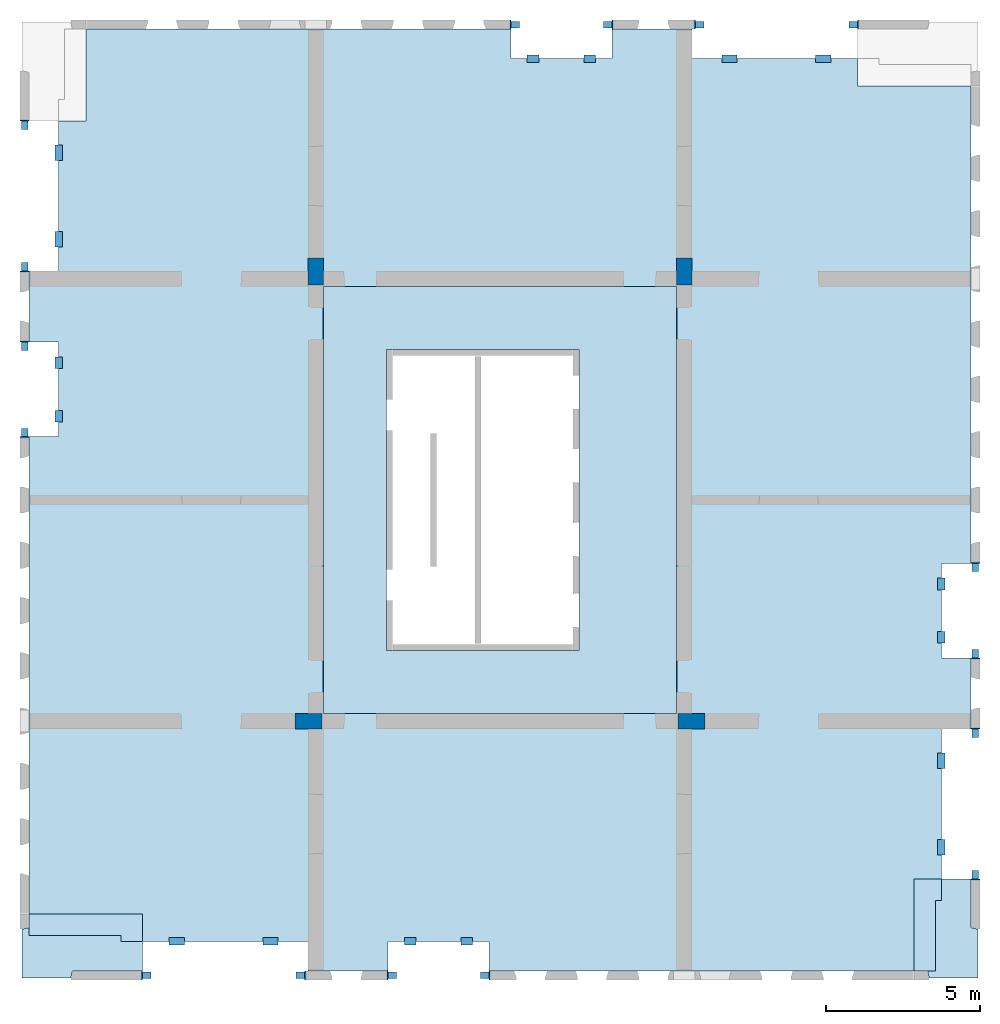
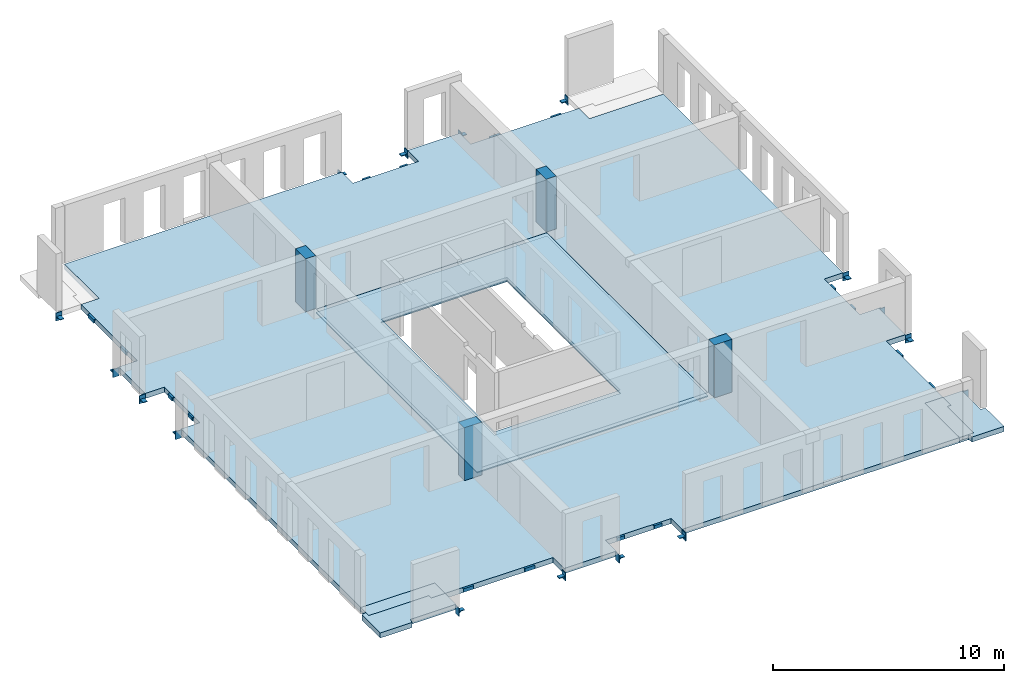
# One storey, part 1 of 4: 32 beams, 7 slabs, 4 columns, 3 openings.
"""IFC2X3 building model written with IfcOpenShell, lengths in millimetres."""

from ifc_helpers import new_model, entity, si_unit, converted_unit, derived_unit, direction, frame, frame_2d, origin, origin_2d_with_axis, place, context, subcontext, project, spatial, polyline, rectangle, outline, extrude, source, transform, mapped, material, layer, layer_set, layer_usage, type_object, type_shapes, element, save


model = new_model("IFC2X3")

# Units and contexts
model_context = context("Model", 3, precision=0.01, world=origin(), true_north=direction((6.12303176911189e-17, 1.0)))
body_context = subcontext(model_context, "Body", "Model", "MODEL_VIEW")
ifc_project = project(units=[si_unit("LENGTHUNIT", "METRE", prefix="MILLI"), si_unit("AREAUNIT", "SQUARE_METRE"), si_unit("VOLUMEUNIT", "CUBIC_METRE"), converted_unit("PLANEANGLEUNIT", "DEGREE", entity("IfcRatioMeasure", 0.0174532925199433), si_unit("PLANEANGLEUNIT", "RADIAN"), dimensions=[0, 0, 0, 0, 0, 0, 0]), si_unit("MASSUNIT", "GRAM", prefix="KILO"), derived_unit("MASSDENSITYUNIT", [(si_unit("MASSUNIT", "GRAM", prefix="KILO"), 1), (si_unit("LENGTHUNIT", "METRE"), -3)]), si_unit("TIMEUNIT", "SECOND"), si_unit("FREQUENCYUNIT", "HERTZ"), si_unit("THERMODYNAMICTEMPERATUREUNIT", "DEGREE_CELSIUS"), derived_unit("THERMALTRANSMITTANCEUNIT", [(si_unit("MASSUNIT", "GRAM", prefix="KILO"), 1), (si_unit("THERMODYNAMICTEMPERATUREUNIT", "KELVIN"), -1), (si_unit("TIMEUNIT", "SECOND"), -3)]), derived_unit("VOLUMETRICFLOWRATEUNIT", [(si_unit("LENGTHUNIT", "METRE"), 3), (si_unit("TIMEUNIT", "SECOND"), -1)]), si_unit("ELECTRICCURRENTUNIT", "AMPERE"), si_unit("ELECTRICVOLTAGEUNIT", "VOLT"), si_unit("POWERUNIT", "WATT"), si_unit("FORCEUNIT", "NEWTON", prefix="KILO"), si_unit("ILLUMINANCEUNIT", "LUX"), si_unit("LUMINOUSFLUXUNIT", "LUMEN"), si_unit("LUMINOUSINTENSITYUNIT", "CANDELA"), derived_unit("USERDEFINED", [(si_unit("MASSUNIT", "GRAM", prefix="KILO"), -1), (si_unit("LENGTHUNIT", "METRE"), -2), (si_unit("TIMEUNIT", "SECOND"), 3), (si_unit("LUMINOUSFLUXUNIT", "LUMEN"), 1)]), derived_unit("LINEARVELOCITYUNIT", [(si_unit("LENGTHUNIT", "METRE"), 1), (si_unit("TIMEUNIT", "SECOND"), -1)]), si_unit("PRESSUREUNIT", "PASCAL"), derived_unit("USERDEFINED", [(si_unit("LENGTHUNIT", "METRE"), -2), (si_unit("MASSUNIT", "GRAM", prefix="KILO"), 1), (si_unit("TIMEUNIT", "SECOND"), -2)])], contexts=[model_context])

# Site, building, storey
site_placement = place(None, origin())
site = spatial("IfcSite", under=ifc_project, at=site_placement, Name="Default", CompositionType="ELEMENT")
building_placement = place(site_placement, origin())
building = spatial("IfcBuilding", under=site, at=building_placement, Name="niet gebruiken", CompositionType="ELEMENT")
storey_placement = place(building_placement, frame((0.0, 0.0, 60840.0)))
storey = spatial("IfcBuildingStorey", under=building, at=storey_placement, Name="19 negentiende verdieping", CompositionType="ELEMENT", Elevation=60840.0)

# Columns
ifc_material_1 = material(Name="NLRS_f2_beton ihwg")
column_type_1 = type_object("IfcColumnType", Name="500x880", PredefinedType="COLUMN", material=ifc_material_1)
shared_shape_1 = source(origin(), body_context, "Body", "SweptSolid", [
    extrude(rectangle(XDim=879.999999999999, YDim=500.000000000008, at=origin_2d_with_axis()), frame((135750.003540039, 24940.0, 60750.0), z_axis=(0.0, 0.0, 1.0), x_axis=(0.0, -1.0, 0.0)), (0.0, 0.0, 1.0), 2790.0),
])
type_shapes(column_type_1, [shared_shape_1])
column_1_placement = place(storey_placement, frame((0.0, 0.0, -60840.0)))
element("IfcColumn", 1, at=column_1_placement, inside=storey, type_object=column_type_1, material=ifc_material_1, Name="NLRS_28.11_SCO_TLB_beton kolom ihwg_gen:500x880", ObjectType="500x880", context=body_context, shape_type="MappedRepresentation", body=[
    mapped(shared_shape_1, transform((0.0, 0.0, 0.0), scale=1.0)),
])
column_type_2 = type_object("IfcColumnType", Name="500x880", PredefinedType="COLUMN", material=ifc_material_1)
shared_shape_2 = source(origin(), body_context, "Body", "SweptSolid", [
    extrude(rectangle(XDim=879.999999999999, YDim=500.000000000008, at=origin_2d_with_axis()), frame((147750.0, 24940.0, 60750.0), z_axis=(0.0, 0.0, 1.0), x_axis=(0.0, -1.0, 0.0)), (0.0, 0.0, 1.0), 2790.0),
])
type_shapes(column_type_2, [shared_shape_2])
column_2_placement = place(storey_placement, frame((0.0, 0.0, -60840.0)))
element("IfcColumn", 2, at=column_2_placement, inside=storey, type_object=column_type_2, material=ifc_material_1, Name="NLRS_28.11_SCO_TLB_beton kolom ihwg_gen:500x880", ObjectType="500x880", context=body_context, shape_type="MappedRepresentation", body=[
    mapped(shared_shape_2, transform((0.0, 0.0, 0.0), scale=1.0)),
])
column_type_3 = type_object("IfcColumnType", Name="500x880", PredefinedType="COLUMN", material=ifc_material_1)
shared_shape_3 = source(origin(), body_context, "Body", "SweptSolid", [
    extrude(rectangle(XDim=500.000000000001, YDim=880.000000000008, at=origin_2d_with_axis()), frame((135510.003540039, 10300.0115507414, 60750.0), z_axis=(0.0, 0.0, 1.0), x_axis=(0.0, -1.0, 0.0)), (0.0, 0.0, 1.0), 2790.0),
])
type_shapes(column_type_3, [shared_shape_3])
column_3_placement = place(storey_placement, frame((0.0, 0.0, -60840.0)))
element("IfcColumn", 3, at=column_3_placement, inside=storey, type_object=column_type_3, material=ifc_material_1, Name="NLRS_28.11_SCO_TLB_beton kolom ihwg_gen:500x880", ObjectType="500x880", context=body_context, shape_type="MappedRepresentation", body=[
    mapped(shared_shape_3, transform((0.0, 0.0, 0.0), scale=1.0)),
])
column_type_4 = type_object("IfcColumnType", Name="500x880", PredefinedType="COLUMN", material=ifc_material_1)
shared_shape_4 = source(origin(), body_context, "Body", "SweptSolid", [
    extrude(rectangle(XDim=500.000000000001, YDim=880.000000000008, at=origin_2d_with_axis()), frame((147990.0, 10300.0, 60750.0), z_axis=(0.0, 0.0, 1.0), x_axis=(0.0, -1.0, 0.0)), (0.0, 0.0, 1.0), 2790.0),
])
type_shapes(column_type_4, [shared_shape_4])
column_4_placement = place(storey_placement, frame((0.0, 0.0, -60840.0)))
element("IfcColumn", 4, at=column_4_placement, inside=storey, type_object=column_type_4, material=ifc_material_1, Name="NLRS_28.11_SCO_TLB_beton kolom ihwg_gen:500x880", ObjectType="500x880", context=body_context, shape_type="MappedRepresentation", body=[
    mapped(shared_shape_4, transform((0.0, 0.0, 0.0), scale=1.0)),
])

# Beams
ifc_material_2 = material(Name="NLRS_h2_staal")
beam_type_1 = type_object("IfcBeamType", Name="NLRS_28.11_SF_WPB_stalen schoen 4_gen", PredefinedType="BEAM", material=ifc_material_2)
shared_shape_5 = source(origin(), body_context, "Body", "SweptSolid", [
    extrude(outline(polyline([(-69.4999999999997, -23.0), (8.49999999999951, -23.0), (30.5, -1.0), (30.5000000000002, 47.0), (-69.4999999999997, -23.0)])), frame((-105.0, -109.499999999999, -58.0), z_axis=(1.0, 0.0, 0.0), x_axis=(0.0, -1.0, 0.0)), (0.0, 0.0, 1.0), 35.0),
    extrude(outline(polyline([(-69.4999999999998, -23.0), (8.49999999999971, -23.0), (30.5, -1.0), (30.5000000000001, 47.0), (-69.4999999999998, -23.0)])), frame((70.0, -109.499999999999, -58.0), z_axis=(1.0, 0.0, 0.0), x_axis=(0.0, -1.0, 0.0)), (0.0, 0.0, 1.0), 35.0),
    extrude(rectangle(XDim=300.0, YDim=34.9999999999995, at=origin_2d_with_axis()), frame((0.0, -157.5, -230.0), z_axis=(0.0, 0.0, 1.0), x_axis=(-1.0, 0.0, 0.0)), (0.0, 0.0, 1.0), 420.0),
    extrude(rectangle(XDim=210.000000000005, YDim=274.999999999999, at=origin_2d_with_axis()), frame((0.0, -2.4999999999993, -35.0), z_axis=(0.0, 0.0, 1.0), x_axis=(-1.0, 0.0, 0.0)), (0.0, 0.0, 1.0), 35.0),
])
type_shapes(beam_type_1, [shared_shape_5])
beam_1_placement = place(storey_placement, frame((157230.0, 12499.7638872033, -310.0)))
element("IfcBeam", 5, at=beam_1_placement, inside=storey, type_object=beam_type_1, material=ifc_material_2, Name="NLRS_28.11_SF_WPB_stalen schoen 4_gen:NLRS_28.11_SF_WPB_stalen schoen 4_gen", ObjectType="NLRS_28.11_SF_WPB_stalen schoen 4_gen", context=body_context, shape_type="MappedRepresentation", body=[
    mapped(shared_shape_5, transform((0.0, 0.0, 0.0), scale=1.0)),
])
for number, where, z_axis, x_axis, name in (
    (6, (126270.0, 22499.7638872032, -310.0), (0.0, 0.0, 1.0), (-1.0, 0.0, 0.0), "NLRS_28.11_SF_WPB_stalen schoen 4_gen:NLRS_28.11_SF_WPB_stalen schoen 4_gen"),
    (7, (157230.0, 15299.7638872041, -310.0), (0.0, 0.0, 1.0), (-1.0, 0.0, 0.0), "NLRS_28.11_SF_WPB_stalen schoen 4_gen:NLRS_28.11_SF_WPB_stalen schoen 4_gen"),
):
    element("IfcBeam", number, at=place(storey_placement, frame(where, z_axis=z_axis, x_axis=x_axis)), inside=storey, type_object=beam_type_1, material=ifc_material_2, Name=name, ObjectType="NLRS_28.11_SF_WPB_stalen schoen 4_gen", context=body_context, shape_type="MappedRepresentation", body=[
        mapped(shared_shape_5, transform((0.0, 0.0, 0.0), scale=1.0)),
    ])
beam_2_placement = place(storey_placement, frame((126270.0, 19699.7638872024, -310.0)))
element("IfcBeam", 8, at=beam_2_placement, inside=storey, type_object=beam_type_1, material=ifc_material_2, Name="NLRS_28.11_SF_WPB_stalen schoen 4_gen:NLRS_28.11_SF_WPB_stalen schoen 4_gen", ObjectType="NLRS_28.11_SF_WPB_stalen schoen 4_gen", context=body_context, shape_type="MappedRepresentation", body=[
    mapped(shared_shape_5, transform((0.0, 0.0, 0.0), scale=1.0)),
])
for number, where, z_axis, x_axis, name in (
    (9, (138250.0, 2019.76388720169, -310.0), (0.0, 0.0, 1.0), (0.0, -1.0, 0.0), "NLRS_28.11_SF_WPB_stalen schoen 4_gen:NLRS_28.11_SF_WPB_stalen schoen 4_gen"),
    (10, (141250.0, 2019.76388720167, -310.0), (0.0, 0.0, 1.0), (0.0, 1.0, 0.0), "NLRS_28.11_SF_WPB_stalen schoen 4_gen:NLRS_28.11_SF_WPB_stalen schoen 4_gen"),
    (11, (145250.0, 32979.7638872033, -310.0), (0.0, 0.0, 1.0), (0.0, 1.0, 0.0), "NLRS_28.11_SF_WPB_stalen schoen 4_gen:NLRS_28.11_SF_WPB_stalen schoen 4_gen"),
    (12, (142250.0, 32979.7638872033, -310.0), (0.0, 0.0, 1.0), (0.0, -1.0, 0.0), "NLRS_28.11_SF_WPB_stalen schoen 4_gen:NLRS_28.11_SF_WPB_stalen schoen 4_gen"),
):
    element("IfcBeam", number, at=place(storey_placement, frame(where, z_axis=z_axis, x_axis=x_axis)), inside=storey, type_object=beam_type_1, material=ifc_material_2, Name=name, ObjectType="NLRS_28.11_SF_WPB_stalen schoen 4_gen", context=body_context, shape_type="MappedRepresentation", body=[
        mapped(shared_shape_5, transform((0.0, 0.0, 0.0), scale=1.0)),
    ])
beam_type_2 = type_object("IfcBeamType", Name="NLRS_28.11_SF_WPB_stalen schoen 3_gen", PredefinedType="BEAM", material=ifc_material_2)
shared_shape_6 = source(origin(), body_context, "Body", "SweptSolid", [
    extrude(outline(polyline([(-69.4999999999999, -23.0), (8.49999999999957, -23.0), (30.5000000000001, -1.0), (30.5000000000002, 47.0), (-69.4999999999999, -23.0)])), frame((-105.0, -109.499999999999, -63.0), z_axis=(1.0, 0.0, 0.0), x_axis=(0.0, -1.0, 0.0)), (0.0, 0.0, 1.0), 40.0),
    extrude(outline(polyline([(-69.4999999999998, -23.0), (8.49999999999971, -23.0), (30.5, -1.0), (30.5000000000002, 47.0), (-69.4999999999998, -23.0)])), frame((65.0, -109.499999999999, -63.0), z_axis=(1.0, 0.0, 0.0), x_axis=(0.0, -1.0, 0.0)), (0.0, 0.0, 1.0), 40.0),
    extrude(rectangle(XDim=300.0, YDim=39.9999999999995, at=origin_2d_with_axis()), frame((0.0, -160.0, -230.0), z_axis=(0.0, 0.0, 1.0), x_axis=(-1.0, 0.0, 0.0)), (0.0, 0.0, 1.0), 420.0),
    extrude(rectangle(XDim=210.000000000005, YDim=274.999999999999, at=origin_2d_with_axis()), frame((0.0, -2.49999999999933, -40.0), z_axis=(0.0, 0.0, 1.0), x_axis=(-1.0, 0.0, 0.0)), (0.0, 0.0, 1.0), 39.9999999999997),
])
type_shapes(beam_type_2, [shared_shape_6])
beam_3_placement = place(storey_placement, frame((157230.0, 9899.76388720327, -310.0), z_axis=(0.0, 0.0, 1.0), x_axis=(-1.0, 0.0, 0.0)))
element("IfcBeam", 13, at=beam_3_placement, inside=storey, type_object=beam_type_2, material=ifc_material_2, Name="NLRS_28.11_SF_WPB_stalen schoen 3_gen:NLRS_28.11_SF_WPB_stalen schoen 3_gen", ObjectType="NLRS_28.11_SF_WPB_stalen schoen 3_gen", context=body_context, shape_type="MappedRepresentation", body=[
    mapped(shared_shape_6, transform((0.0, 0.0, 0.0), scale=1.0)),
])
for number, where, name in (
    (14, (157230.0, 5299.76388720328, -310.0), "NLRS_28.11_SF_WPB_stalen schoen 3_gen:NLRS_28.11_SF_WPB_stalen schoen 3_gen"),
    (15, (126270.0, 25099.7638872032, -310.0), "NLRS_28.11_SF_WPB_stalen schoen 3_gen:NLRS_28.11_SF_WPB_stalen schoen 3_gen"),
):
    element("IfcBeam", number, at=place(storey_placement, frame(where)), inside=storey, type_object=beam_type_2, material=ifc_material_2, Name=name, ObjectType="NLRS_28.11_SF_WPB_stalen schoen 3_gen", context=body_context, shape_type="MappedRepresentation", body=[
        mapped(shared_shape_6, transform((0.0, 0.0, 0.0), scale=1.0)),
    ])
for number, where, z_axis, x_axis, name in (
    (16, (126270.0, 29699.7638872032, -310.0), (0.0, 0.0, 1.0), (-1.0, 0.0, 0.0), "NLRS_28.11_SF_WPB_stalen schoen 3_gen:NLRS_28.11_SF_WPB_stalen schoen 3_gen"),
    (17, (135250.0, 2019.76388720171, -310.0), (0.0, 0.0, 1.0), (0.0, 1.0, 0.0), "NLRS_28.11_SF_WPB_stalen schoen 3_gen:NLRS_28.11_SF_WPB_stalen schoen 3_gen"),
    (18, (130250.0, 2019.76388720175, -310.0), (0.0, 0.0, 1.0), (0.0, -1.0, 0.0), "NLRS_28.11_SF_WPB_stalen schoen 3_gen:NLRS_28.11_SF_WPB_stalen schoen 3_gen"),
    (19, (148250.0, 32979.7638872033, -310.0), (0.0, 0.0, 1.0), (0.0, -1.0, 0.0), "NLRS_28.11_SF_WPB_stalen schoen 3_gen:NLRS_28.11_SF_WPB_stalen schoen 3_gen"),
    (20, (153250.0, 32979.7638872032, -310.0), (0.0, 0.0, 1.0), (0.0, 1.0, 0.0), "NLRS_28.11_SF_WPB_stalen schoen 3_gen:NLRS_28.11_SF_WPB_stalen schoen 3_gen"),
):
    element("IfcBeam", number, at=place(storey_placement, frame(where, z_axis=z_axis, x_axis=x_axis)), inside=storey, type_object=beam_type_2, material=ifc_material_2, Name=name, ObjectType="NLRS_28.11_SF_WPB_stalen schoen 3_gen", context=body_context, shape_type="MappedRepresentation", body=[
        mapped(shared_shape_6, transform((0.0, 0.0, 0.0), scale=1.0)),
    ])
beam_type_3 = type_object("IfcBeamType", Name="NLRS_28.11_SF_WPB_stalen handje 7 lang 375_gen:NLRS_28.11_SF_WPB_stalen handje 7_gen", PredefinedType="BEAM")
beam_4_placement = place(storey_placement, frame((156235.125015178, 9255.01275181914, -93.0), z_axis=(0.0, 0.0, 1.0), x_axis=(0.0, -1.0, 0.0)))
element("IfcBeam", 21, at=beam_4_placement, inside=storey, type_object=beam_type_3, material=ifc_material_2, Name="NLRS_28.11_SF_WPB_stalen handje 7 lang 375_gen:NLRS_28.11_SF_WPB_stalen handje 7_gen", ObjectType="NLRS_28.11_SF_WPB_stalen handje 7 lang 375_gen:NLRS_28.11_SF_WPB_stalen handje 7_gen", context=body_context, shape_type="SweptSolid", body=[
    extrude(outline(polyline([(-70.6666666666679, -153.33333333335), (-40.6666666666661, -153.33333333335), (-40.6666666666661, 61.6666666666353), (111.333333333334, 61.6666666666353), (111.333333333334, 91.6666666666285), (-70.6666666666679, 91.6666666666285), (-70.6666666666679, -153.33333333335)])), frame((0.0, -91.6666666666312, -70.6666666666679), z_axis=(1.0, 0.0, 0.0), x_axis=(0.0, 0.0, -1.0)), (0.0, 0.0, 1.0), 500.000000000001),
])
beam_5_placement = place(storey_placement, frame((156235.125015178, 6445.0097115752, -93.0), z_axis=(0.0, 0.0, 1.0), x_axis=(0.0, -1.0, 0.0)))
element("IfcBeam", 22, at=beam_5_placement, inside=storey, type_object=beam_type_3, material=ifc_material_2, Name="NLRS_28.11_SF_WPB_stalen handje 7 lang 375_gen:NLRS_28.11_SF_WPB_stalen handje 7_gen", ObjectType="NLRS_28.11_SF_WPB_stalen handje 7 lang 375_gen:NLRS_28.11_SF_WPB_stalen handje 7_gen", context=body_context, shape_type="SweptSolid", body=[
    extrude(outline(polyline([(-70.6666666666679, -153.33333333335), (-40.6666666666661, -153.33333333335), (-40.6666666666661, 61.6666666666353), (111.333333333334, 61.6666666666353), (111.333333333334, 91.6666666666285), (-70.6666666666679, 91.6666666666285), (-70.6666666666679, -153.33333333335)])), frame((0.0, -91.6666666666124, -70.6666666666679), z_axis=(1.0, 0.0, 0.0), x_axis=(0.0, 0.0, -1.0)), (0.0, 0.0, 1.0), 500.000000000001),
])
beam_6_placement = place(storey_placement, frame((127264.874984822, 25744.5150225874, -93.0), z_axis=(0.0, 0.0, 1.0), x_axis=(0.0, 1.0, 0.0)))
element("IfcBeam", 23, at=beam_6_placement, inside=storey, type_object=beam_type_3, material=ifc_material_2, Name="NLRS_28.11_SF_WPB_stalen handje 7 lang 375_gen:NLRS_28.11_SF_WPB_stalen handje 7_gen", ObjectType="NLRS_28.11_SF_WPB_stalen handje 7 lang 375_gen:NLRS_28.11_SF_WPB_stalen handje 7_gen", context=body_context, shape_type="SweptSolid", body=[
    extrude(outline(polyline([(-70.6666666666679, -153.333333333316), (-40.6666666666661, -153.333333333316), (-40.6666666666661, 61.66666666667), (111.333333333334, 61.66666666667), (111.333333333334, 91.6666666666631), (-70.6666666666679, 91.6666666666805), (-70.6666666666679, -153.333333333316)])), frame((0.0, -91.6666666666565, -70.6666666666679), z_axis=(1.0, 0.0, 0.0), x_axis=(0.0, 0.0, -1.0)), (0.0, 0.0, 1.0), 500.0),
])
beam_7_placement = place(storey_placement, frame((127264.874984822, 28554.5180628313, -93.0), z_axis=(0.0, 0.0, 1.0), x_axis=(0.0, 1.0, 0.0)))
element("IfcBeam", 24, at=beam_7_placement, inside=storey, type_object=beam_type_3, material=ifc_material_2, Name="NLRS_28.11_SF_WPB_stalen handje 7 lang 375_gen:NLRS_28.11_SF_WPB_stalen handje 7_gen", ObjectType="NLRS_28.11_SF_WPB_stalen handje 7 lang 375_gen:NLRS_28.11_SF_WPB_stalen handje 7_gen", context=body_context, shape_type="SweptSolid", body=[
    extrude(outline(polyline([(-70.6666666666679, -153.33333333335), (-40.6666666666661, -153.33333333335), (-40.6666666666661, 61.6666666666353), (111.333333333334, 61.6666666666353), (111.333333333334, 91.6666666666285), (-70.6666666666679, 91.6666666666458), (-70.6666666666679, -153.33333333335)])), frame((0.0, -91.6666666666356, -70.6666666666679), z_axis=(1.0, 0.0, 0.0), x_axis=(0.0, 0.0, -1.0)), (0.0, 0.0, 1.0), 500.0),
])
for number, where, z_axis, x_axis, name in (
    (25, (140862.631597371, 3015.0, -93.0), (0.0, 0.0, 1.0), (-1.0, 0.0, 0.0), "NLRS_28.11_SF_WPB_stalen handje 7 lang 375_gen:NLRS_28.11_SF_WPB_stalen handje 7_gen"),
    (26, (139012.628555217, 3015.0, -93.0), (0.0, 0.0, 1.0), (-1.0, 0.0, 0.0), "NLRS_28.11_SF_WPB_stalen handje 7 lang 375_gen:NLRS_28.11_SF_WPB_stalen handje 7_gen"),
):
    element("IfcBeam", number, at=place(storey_placement, frame(where, z_axis=z_axis, x_axis=x_axis)), inside=storey, type_object=beam_type_3, material=ifc_material_2, Name=name, ObjectType="NLRS_28.11_SF_WPB_stalen handje 7 lang 375_gen:NLRS_28.11_SF_WPB_stalen handje 7_gen", context=body_context, shape_type="SweptSolid", body=[
        extrude(outline(polyline([(-70.6666666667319, -153.333333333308), (-40.6666666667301, -153.333333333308), (-40.6666666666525, 61.6666666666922), (111.333333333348, 61.6666666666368), (111.333333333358, 91.6666666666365), (-70.6666666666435, 91.6666666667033), (-70.6666666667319, -153.333333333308)])), frame((0.0, -91.6666666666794, -70.6666666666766), z_axis=(1.0, 0.0, 0.0), x_axis=(0.0, 0.0, -1.0)), (0.0, 0.0, 1.0), 375.000000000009),
    ])
for number, where, z_axis, x_axis, name in (
    (27, (134525.131597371, 3015.0, -93.0), (0.0, 0.0, 1.0), (-1.0, 0.0, 0.0), "NLRS_28.11_SF_WPB_stalen handje 7 lang 375_gen:NLRS_28.11_SF_WPB_stalen handje 7_gen"),
    (28, (131475.128555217, 3015.0, -93.0), (0.0, 0.0, 1.0), (-1.0, 0.0, 0.0), "NLRS_28.11_SF_WPB_stalen handje 7 lang 375_gen:NLRS_28.11_SF_WPB_stalen handje 7_gen"),
):
    element("IfcBeam", number, at=place(storey_placement, frame(where, z_axis=z_axis, x_axis=x_axis)), inside=storey, type_object=beam_type_3, material=ifc_material_2, Name=name, ObjectType="NLRS_28.11_SF_WPB_stalen handje 7 lang 375_gen:NLRS_28.11_SF_WPB_stalen handje 7_gen", context=body_context, shape_type="SweptSolid", body=[
        extrude(outline(polyline([(-70.6666666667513, -153.333333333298), (-40.6666666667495, -153.333333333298), (-40.6666666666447, 61.6666666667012), (111.333333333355, 61.6666666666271), (111.33333333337, 91.6666666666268), (-70.6666666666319, 91.666666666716), (-70.6666666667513, -153.333333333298)])), frame((0.0, -91.6666666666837, -70.6666666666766), z_axis=(1.0, 0.0, 0.0), x_axis=(0.0, 0.0, -1.0)), (0.0, 0.0, 1.0), 500.000000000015),
    ])
for number, where, name in (
    (29, (142637.368402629, 31984.527774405, -93.0), "NLRS_28.11_SF_WPB_stalen handje 7 lang 375_gen:NLRS_28.11_SF_WPB_stalen handje 7_gen"),
    (30, (144487.371444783, 31984.527774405, -93.0), "NLRS_28.11_SF_WPB_stalen handje 7 lang 375_gen:NLRS_28.11_SF_WPB_stalen handje 7_gen"),
):
    element("IfcBeam", number, at=place(storey_placement, frame(where)), inside=storey, type_object=beam_type_3, material=ifc_material_2, Name=name, ObjectType="NLRS_28.11_SF_WPB_stalen handje 7 lang 375_gen:NLRS_28.11_SF_WPB_stalen handje 7_gen", context=body_context, shape_type="SweptSolid", body=[
        extrude(outline(polyline([(-70.6666666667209, -153.333333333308), (-40.666666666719, -153.333333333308), (-40.6666666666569, 61.6666666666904), (111.333333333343, 61.6666666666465), (111.333333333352, 91.6666666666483), (-70.6666666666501, 91.6666666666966), (-70.6666666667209, -153.333333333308)])), frame((0.0, -91.6666666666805, -70.6666666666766), z_axis=(1.0, 0.0, 0.0), x_axis=(0.0, 0.0, -1.0)), (0.0, 0.0, 1.0), 375.000000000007),
    ])
for number, where, name in (
    (31, (148974.868402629, 31984.5277744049, -93.0), "NLRS_28.11_SF_WPB_stalen handje 7 lang 375_gen:NLRS_28.11_SF_WPB_stalen handje 7_gen"),
    (32, (152024.871444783, 31984.5277744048, -93.0), "NLRS_28.11_SF_WPB_stalen handje 7 lang 375_gen:NLRS_28.11_SF_WPB_stalen handje 7_gen"),
):
    element("IfcBeam", number, at=place(storey_placement, frame(where)), inside=storey, type_object=beam_type_3, material=ifc_material_2, Name=name, ObjectType="NLRS_28.11_SF_WPB_stalen handje 7 lang 375_gen:NLRS_28.11_SF_WPB_stalen handje 7_gen", context=body_context, shape_type="SweptSolid", body=[
        extrude(outline(polyline([(-70.666666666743, -153.333333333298), (-40.6666666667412, -153.333333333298), (-40.666666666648, 61.6666666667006), (111.333333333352, 61.6666666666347), (111.333333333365, 91.6666666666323), (-70.6666666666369, 91.6666666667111), (-70.666666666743, -153.333333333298)])), frame((0.0, -91.6666666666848, -70.6666666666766), z_axis=(1.0, 0.0, 0.0), x_axis=(0.0, 0.0, -1.0)), (0.0, 0.0, 1.0), 500.000000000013),
    ])
beam_8_placement = place(storey_placement, frame((156235.0, 14952.273598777, -93.0), z_axis=(0.0, 0.0, 1.0), x_axis=(0.0, -1.0, 0.0)))
element("IfcBeam", 33, at=beam_8_placement, inside=storey, type_object=beam_type_3, material=ifc_material_2, Name="NLRS_28.11_SF_WPB_stalen handje 7 lang 375_gen:NLRS_28.11_SF_WPB_stalen handje 7_gen", ObjectType="NLRS_28.11_SF_WPB_stalen handje 7 lang 375_gen:NLRS_28.11_SF_WPB_stalen handje 7_gen", context=body_context, shape_type="SweptSolid", body=[
    extrude(outline(polyline([(-70.6666666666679, -153.333333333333), (-40.6666666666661, -153.333333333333), (-40.6666666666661, 61.66666666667), (111.333333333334, 61.66666666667), (111.333333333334, 91.6666666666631), (-70.6666666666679, 91.6666666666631), (-70.6666666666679, -153.333333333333)])), frame((0.0, -91.6666666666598, -70.6666666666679), z_axis=(1.0, 0.0, 0.0), x_axis=(0.0, 0.0, -1.0)), (0.0, 0.0, 1.0), 375.000000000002),
])
beam_9_placement = place(storey_placement, frame((156235.0, 13222.273598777, -93.0), z_axis=(0.0, 0.0, 1.0), x_axis=(0.0, -1.0, 0.0)))
element("IfcBeam", 34, at=beam_9_placement, inside=storey, type_object=beam_type_3, material=ifc_material_2, Name="NLRS_28.11_SF_WPB_stalen handje 7 lang 375_gen:NLRS_28.11_SF_WPB_stalen handje 7_gen", ObjectType="NLRS_28.11_SF_WPB_stalen handje 7 lang 375_gen:NLRS_28.11_SF_WPB_stalen handje 7_gen", context=body_context, shape_type="SweptSolid", body=[
    extrude(outline(polyline([(-70.6666666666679, -153.333333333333), (-40.6666666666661, -153.333333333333), (-40.6666666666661, 61.66666666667), (111.333333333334, 61.66666666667), (111.333333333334, 91.6666666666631), (-70.6666666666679, 91.6666666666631), (-70.6666666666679, -153.333333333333)])), frame((0.0, -91.6666666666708, -70.6666666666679), z_axis=(1.0, 0.0, 0.0), x_axis=(0.0, 0.0, -1.0)), (0.0, 0.0, 1.0), 375.000000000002),
])
beam_10_placement = place(storey_placement, frame((127265.0, 20047.2541756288, -93.0), z_axis=(0.0, 0.0, 1.0), x_axis=(0.0, 1.0, 0.0)))
element("IfcBeam", 35, at=beam_10_placement, inside=storey, type_object=beam_type_3, material=ifc_material_2, Name="NLRS_28.11_SF_WPB_stalen handje 7 lang 375_gen:NLRS_28.11_SF_WPB_stalen handje 7_gen", ObjectType="NLRS_28.11_SF_WPB_stalen handje 7 lang 375_gen:NLRS_28.11_SF_WPB_stalen handje 7_gen", context=body_context, shape_type="SweptSolid", body=[
    extrude(outline(polyline([(-70.6666666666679, -153.33333333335), (-40.6666666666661, -153.33333333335), (-40.6666666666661, 61.6666666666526), (111.333333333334, 61.6666666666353), (111.333333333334, 91.6666666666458), (-70.6666666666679, 91.6666666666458), (-70.6666666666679, -153.33333333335)])), frame((0.0, -91.6666666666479, -70.6666666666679), z_axis=(1.0, 0.0, 0.0), x_axis=(0.0, 0.0, -1.0)), (0.0, 0.0, 1.0), 375.000000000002),
])
beam_11_placement = place(storey_placement, frame((127265.0, 21777.2541756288, -93.0), z_axis=(0.0, 0.0, 1.0), x_axis=(0.0, 1.0, 0.0)))
element("IfcBeam", 36, at=beam_11_placement, inside=storey, type_object=beam_type_3, material=ifc_material_2, Name="NLRS_28.11_SF_WPB_stalen handje 7 lang 375_gen:NLRS_28.11_SF_WPB_stalen handje 7_gen", ObjectType="NLRS_28.11_SF_WPB_stalen handje 7 lang 375_gen:NLRS_28.11_SF_WPB_stalen handje 7_gen", context=body_context, shape_type="SweptSolid", body=[
    extrude(outline(polyline([(-70.6666666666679, -153.333333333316), (-40.6666666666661, -153.333333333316), (-40.6666666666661, 61.6666666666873), (111.333333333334, 61.66666666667), (111.333333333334, 91.6666666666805), (-70.6666666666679, 91.6666666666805), (-70.6666666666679, -153.333333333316)])), frame((0.0, -91.6666666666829, -70.6666666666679), z_axis=(1.0, 0.0, 0.0), x_axis=(0.0, 0.0, -1.0)), (0.0, 0.0, 1.0), 375.000000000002),
])

# Slabs
ifc_material_3 = material(Name="NLRS_f2_beton prefab")
ifc_layer_1 = layer(ifc_material_3, 270.0)
ifc_layer_set_1 = layer_set([ifc_layer_1], Name="Floor:NLRS_23.22_FL_beton prefab d=270 3D element_gen")
ifc_layer_usage_1 = layer_usage(ifc_layer_set_1, "AXIS3", "POSITIVE", 0.0)
slab_1_placement = place(storey_placement, origin())
element("IfcSlab", 37, at=slab_1_placement, inside=storey, material=ifc_layer_usage_1, Name="Floor:NLRS_23.22_FL_beton prefab d=270 3D element_gen", ObjectType="Floor:NLRS_23.22_FL_beton prefab d=270 3D element_gen", PredefinedType="LANDING", context=body_context, shape_type="SweptSolid", body=[
    extrude(outline(polyline([(-1034.47139498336, -1100.52860501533), (1955.52860501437, -1100.52860501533), (1955.52860501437, 749.471394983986), (370.152429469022, 749.471394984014), (322.675940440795, 982.471394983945), (-1267.47139498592, 982.471394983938), (-1267.47139498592, -607.675940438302), (-1034.47139498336, -655.152429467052), (-1034.47139498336, -1100.52860501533)])), frame((156330.528605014, 3204.47139498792, -90.0), z_axis=(0.0, 0.0, -1.0), x_axis=(0.0, 1.0, 0.0)), (0.0, 0.0, 1.0), 269.999999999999),
])
ifc_layer_2 = layer(ifc_material_1, 170.0)
ifc_layer_set_2 = layer_set([ifc_layer_2], Name="Floor:NLRS_23.21_FL_beton ihwg d=170_gen")
ifc_layer_usage_2 = layer_usage(ifc_layer_set_2, "AXIS3", "POSITIVE", 0.0)
slab_2_placement = place(storey_placement, origin())
element("IfcSlab", 38, at=slab_2_placement, inside=storey, material=ifc_layer_usage_2, Name="Floor:NLRS_23.21_FL_beton ihwg d=170_gen", ObjectType="Floor:NLRS_23.21_FL_beton ihwg d=170_gen", PredefinedType="FLOOR", context=body_context, shape_type="SweptSolid", body=[
    extrude(outline(polyline([(-1760.0, -533.33333333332), (1230.0, -533.33333333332), (1230.0, 366.666666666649), (530.0, 366.666666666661), (530.0, 166.666666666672), (-1760.0, 166.666666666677), (-1760.0, -533.33333333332)])), frame((155763.333333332, 3930.0, -90.0), z_axis=(0.0, 0.0, -1.0), x_axis=(0.0, 1.0, 0.0)), (0.0, 0.0, 1.0), 169.999999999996),
])
ifc_layer_usage_3 = layer_usage(ifc_layer_set_1, "AXIS3", "POSITIVE", 0.0)
slab_3_placement = place(storey_placement, origin())
element("IfcSlab", 39, at=slab_3_placement, inside=storey, material=ifc_layer_usage_3, Name="Floor:NLRS_23.22_FL_beton prefab d=270 3D element_gen", ObjectType="Floor:NLRS_23.22_FL_beton prefab d=270 3D element_gen", PredefinedType="LANDING", context=body_context, shape_type="SweptSolid", body=[
    extrude(outline(polyline([(-982.471394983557, -1442.47139498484), (607.67594043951, -1442.47139498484), (655.152429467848, -1209.47139498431), (1100.52860501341, -1209.47139498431), (1100.52860501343, 2480.5286050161), (-749.471394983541, 2480.5286050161), (-749.471394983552, 195.15242946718), (-982.47139498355, 147.675940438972), (-982.471394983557, -1442.47139498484)])), frame((127629.471394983, 2919.47139499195, -90.0), z_axis=(0.0, 0.0, -1.0), x_axis=(0.0, 1.0, 0.0)), (0.0, 0.0, 1.0), 269.999999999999),
])
ifc_layer_usage_4 = layer_usage(ifc_layer_set_2, "AXIS3", "POSITIVE", 0.0)
slab_4_placement = place(storey_placement, origin())
element("IfcSlab", 40, at=slab_4_placement, inside=storey, material=ifc_layer_usage_4, Name="Floor:NLRS_23.21_FL_beton ihwg d=170_gen", ObjectType="Floor:NLRS_23.21_FL_beton ihwg d=170_gen", PredefinedType="FLOOR", context=body_context, shape_type="SweptSolid", body=[
    extrude(outline(polyline([(-166.666666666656, -2226.66666666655), (533.333333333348, -2226.66666666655), (533.333333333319, 1463.33333333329), (-366.666666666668, 1463.33333333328), (-366.666666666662, 763.333333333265), (-166.666666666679, 763.333333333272), (-166.666666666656, -2226.66666666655)])), frame((128646.666666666, 3486.66666667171, -90.0), z_axis=(0.0, 0.0, -1.0), x_axis=(0.0, 1.0, 0.0)), (0.0, 0.0, 1.0), 169.999999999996),
])

# Slab, opening
ifc_layer_3 = layer(ifc_material_1, 230.0)
ifc_layer_set_3 = layer_set([ifc_layer_3], Name="Floor:NLRS_23.21_FL_vloer=230_gen")
ifc_layer_usage_5 = layer_usage(ifc_layer_set_3, "AXIS3", "POSITIVE", 0.0)
slab_5_placement = place(storey_placement, frame((136000.0, 10549.7638872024, -320.0)))
slab_5 = element("IfcSlab", 41, at=slab_5_placement, inside=storey, material=ifc_layer_usage_5, Name="Floor:NLRS_23.21_FL_vloer=230_gen", ObjectType="Floor:NLRS_23.21_FL_vloer=230_gen", PredefinedType="FLOOR", context=body_context, shape_type="SweptSolid", body=[
    extrude(rectangle(XDim=13900.2361127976, YDim=11500.0, at=frame_2d((0.0, 0.0), x_axis=(0.0, -1.0))), frame((5750.0, 6950.11805639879, 230.0), z_axis=(0.0, 0.0, -1.0), x_axis=(-1.0, 0.0, 0.0)), (0.0, 0.0, 1.0), 230.0),
])
opening_1_placement = place(slab_5_placement, frame((5190.0, 6950.23611279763, 230.0)))
element("IfcOpeningElement", 42, at=opening_1_placement, cuts=slab_5, Name="Floor:NLRS_23.21_FL_vloer=230_gen:2", ObjectType="Opening", context=body_context, shape_type="SweptSolid", body=[
    extrude(rectangle(XDim=9800.0, YDim=6279.99999999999, at=origin_2d_with_axis()), frame((0.0, 0.0, 0.0), z_axis=(0.0, 0.0, -1.0), x_axis=(0.0, -1.0, 0.0)), (0.0, 0.0, 1.0), 230.0),
])

ifc_layer_4 = layer(ifc_material_1, 170.0)
ifc_layer_5 = layer(ifc_material_3, 100.0)
ifc_layer_set_4 = layer_set([ifc_layer_4, ifc_layer_5], Name="Floor:NLRS_23.21_FL_breedplaat d=100/270_gen")
ifc_layer_usage_6 = layer_usage(ifc_layer_set_4, "AXIS3", "POSITIVE", 0.0)
slab_6_placement = place(storey_placement, frame((126419.874984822, 2169.52777440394, -360.0)))
slab_6 = element("IfcSlab", 43, at=slab_6_placement, inside=storey, material=ifc_layer_usage_6, Name="Floor:NLRS_23.21_FL_breedplaat d=100/270_gen", ObjectType="Floor:NLRS_23.21_FL_breedplaat d=100/270_gen", PredefinedType="FLOOR", context=body_context, shape_type="SweptSolid", body=[
    extrude(outline(polyline([(-360.0, 15330.0), (-360.0, 14380.0), (-3640.0, 14380.0), (-3640.0, 15330.0), (-6250.0, 15330.0), (-6250.0, 14380.0), (-11640.0, 14380.0), (-11640.0, 13480.0), (-15330.0, 13480.0), (-15330.0, -2060.0), (-14380.0, -2060.0), (-14380.0, -5140.0), (-15330.0, -5140.0), (-15330.0, -7450.0), (-14380.0, -7450.0), (-14380.0, -12340.0), (-13480.0, -12340.0), (-13480.0, -15330.0), (360.0, -15330.0), (360.0, -14380.0), (3640.0, -14380.0), (3640.0, -15330.0), (6250.0, -15330.0), (6250.0, -14380.0), (11640.0, -14380.0), (11640.0, -13480.0), (15330.0, -13480.0), (15330.0, 2060.0), (14380.0, 2060.0), (14380.0, 5140.0), (15330.0, 5140.0), (15330.0, 7450.0), (14380.0, 7450.0), (14380.0, 12340.0), (13480.0, 12340.0), (13480.0, 15330.0), (-360.0, 15330.0)])), frame((15330.0, 15330.0, 270.0), z_axis=(0.0, 0.0, -1.0), x_axis=(-1.0, 0.0, 0.0)), (0.0, 0.0, 1.0), 269.999999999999),
])
opening_2_placement = place(slab_6_placement, frame((15330.0, 15330.0, 270.0)))
element("IfcOpeningElement", 44, at=opening_2_placement, cuts=slab_6, Name="Floor:NLRS_23.21_FL_breedplaat d=100/270_gen:2", ObjectType="Opening", context=body_context, shape_type="SweptSolid", body=[
    extrude(rectangle(XDim=13900.0, YDim=11500.0, at=origin_2d_with_axis()), frame((0.0, 0.0, 0.0), z_axis=(0.0, 0.0, -1.0), x_axis=(0.0, -1.0, 0.0)), (0.0, 0.0, 1.0), 269.999999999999),
])

ifc_layer_6 = layer(ifc_material_3, 60.0)
ifc_layer_set_5 = layer_set([ifc_layer_6], Name="Floor:NLRS_23.21_FL_breedplaat d=60_gen")
ifc_layer_usage_7 = layer_usage(ifc_layer_set_5, "AXIS3", "POSITIVE", 0.0)
slab_7_placement = place(storey_placement, frame((135990.0, 10540.0, -320.0)))
slab_7 = element("IfcSlab", 45, at=slab_7_placement, inside=storey, material=ifc_layer_usage_7, Name="Floor:NLRS_23.21_FL_breedplaat d=60_gen", ObjectType="Floor:NLRS_23.21_FL_breedplaat d=60_gen", PredefinedType="FLOOR", context=body_context, shape_type="SweptSolid", body=[
    extrude(rectangle(XDim=13919.9999999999, YDim=11520.0, at=frame_2d((0.0, 0.0), x_axis=(0.0, -1.0))), frame((5760.0, 6960.0, 60.0), z_axis=(0.0, 0.0, -1.0), x_axis=(-1.0, 0.0, 0.0)), (0.0, 0.0, 1.0), 60.0000000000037),
])
opening_3_placement = place(slab_7_placement, frame((5200.0, 6960.0, 60.0)))
element("IfcOpeningElement", 46, at=opening_3_placement, cuts=slab_7, Name="Floor:NLRS_23.21_FL_breedplaat d=60_gen:2", ObjectType="Opening", context=body_context, shape_type="SweptSolid", body=[
    extrude(rectangle(XDim=9820.0, YDim=6299.99999999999, at=origin_2d_with_axis()), frame((0.0, 0.0, 0.0), z_axis=(0.0, 0.0, -1.0), x_axis=(0.0, -1.0, 0.0)), (0.0, 0.0, 1.0), 60.0000000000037),
])

save(model, "model.ifc")
